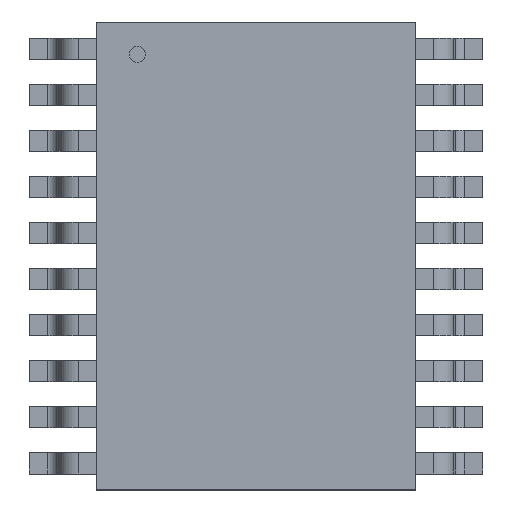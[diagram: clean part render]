
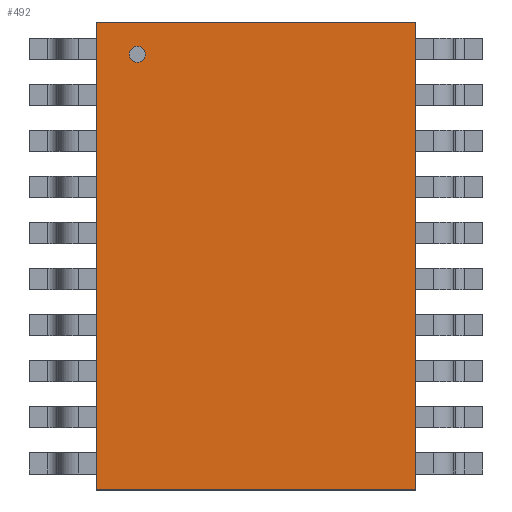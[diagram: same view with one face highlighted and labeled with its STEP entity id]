
A CAD part, top view. The second image highlights one B-rep face of the part: STEP entity #492.
In plain terms, the highlighted planar face has unit normal (0, 0, 1).
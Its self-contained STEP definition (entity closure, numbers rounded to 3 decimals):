
#268=CARTESIAN_POINT('',(2.25,-3.3,1.1));
#267=VERTEX_POINT('',#268);
#278=CARTESIAN_POINT('',(-2.25,-3.3,1.1));
#277=VERTEX_POINT('',#278);
#276=EDGE_CURVE('',#277,#267,#281,.T.);
#281=LINE('',#278,#283);
#283=VECTOR('',#284,4.5);
#284=DIRECTION('',(1.0,0.0,0.0));
#317=CARTESIAN_POINT('',(2.25,3.3,1.1));
#316=VERTEX_POINT('',#317);
#325=EDGE_CURVE('',#267,#316,#330,.T.);
#330=LINE('',#268,#332);
#332=VECTOR('',#333,6.6);
#333=DIRECTION('',(0.0,1.0,0.0));
#366=CARTESIAN_POINT('',(-2.25,3.3,1.1));
#365=VERTEX_POINT('',#366);
#374=EDGE_CURVE('',#316,#365,#379,.T.);
#379=LINE('',#317,#381);
#381=VECTOR('',#382,4.5);
#382=DIRECTION('',(-1.0,0.0,0.0));
#423=EDGE_CURVE('',#365,#277,#428,.T.);
#428=LINE('',#366,#430);
#430=VECTOR('',#431,6.6);
#431=DIRECTION('',(0.0,-1.0,0.0));
#492=ADVANCED_FACE('',(#498),#493,.T.);
#493=PLANE('',#494);
#494=AXIS2_PLACEMENT_3D('',#495,#496,#497);
#495=CARTESIAN_POINT('',(-2.25,-3.3,1.1));
#496=DIRECTION('',(0.0,0.0,1.0));
#497=DIRECTION('',(0.,1.,0.));
#498=FACE_OUTER_BOUND('',#499,.T.);
#499=EDGE_LOOP('',(#500,#510,#520,#530));
#500=ORIENTED_EDGE('',*,*,#276,.T.);
#510=ORIENTED_EDGE('',*,*,#325,.T.);
#520=ORIENTED_EDGE('',*,*,#374,.T.);
#530=ORIENTED_EDGE('',*,*,#423,.T.);
